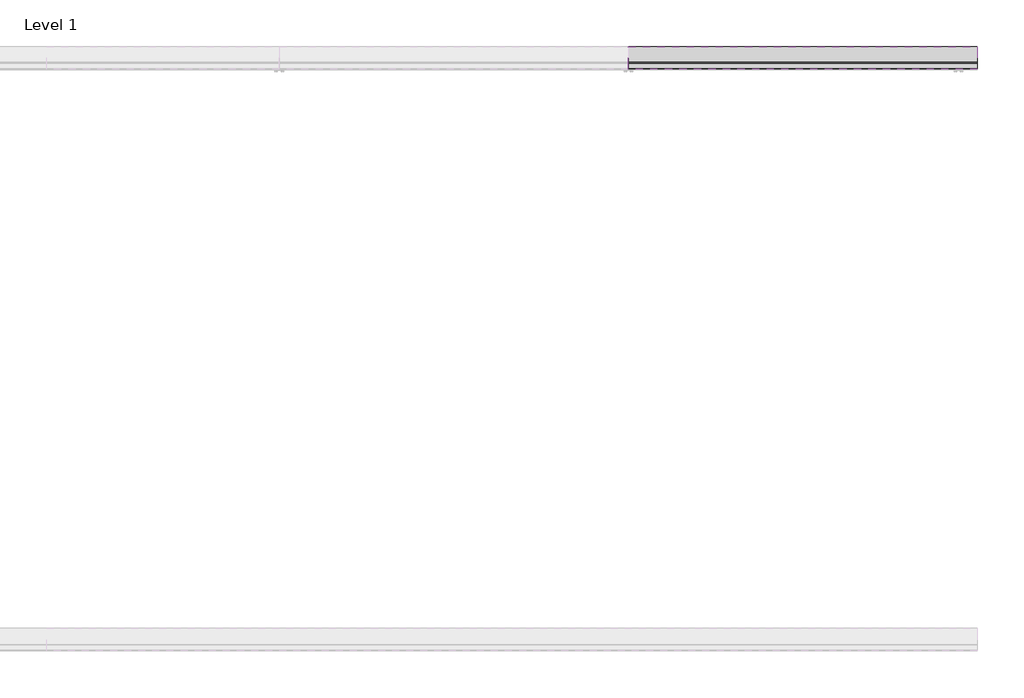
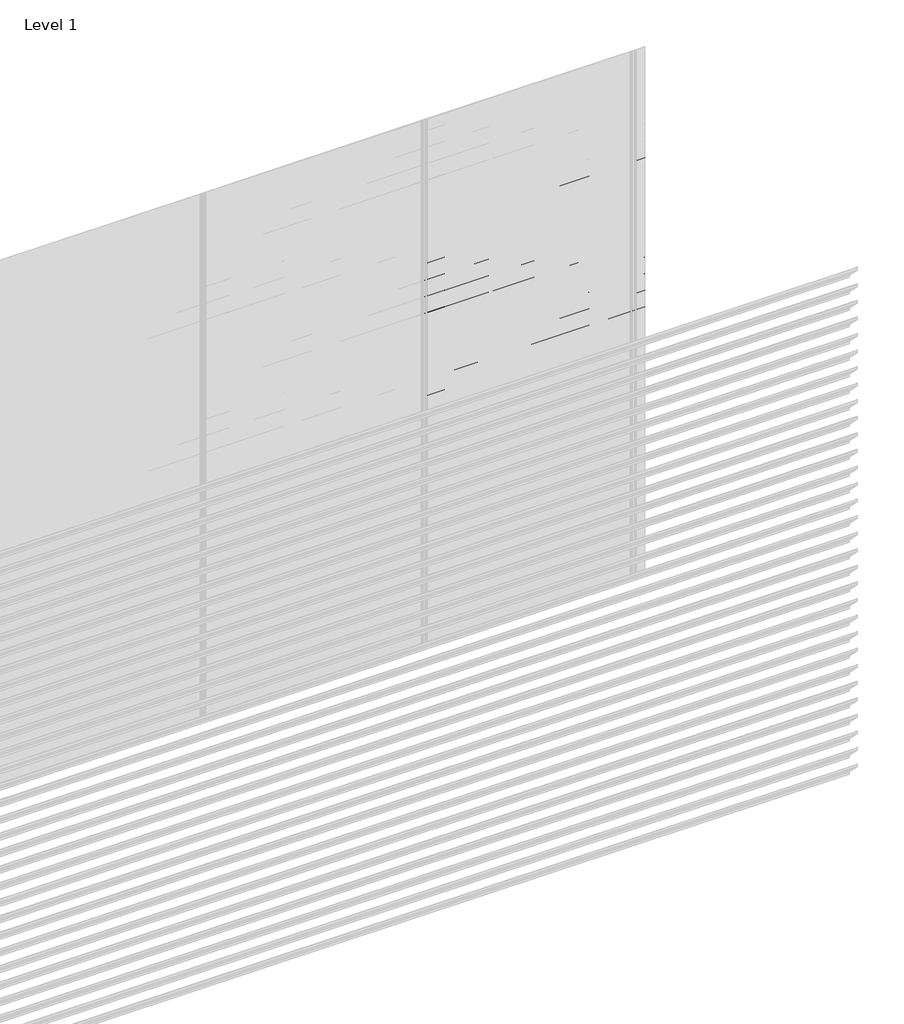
# One storey, part 24 of 24: 25 proxies.
"""IFC4 building model written with IfcOpenShell, lengths in millimetres."""

from ifc_helpers import new_model, si_unit, frame, origin, place, context, project, spatial, polyline, outline, extrude, element, save

model = new_model("IFC4")

# Units and contexts
model_context = context("Model", 3, world=origin())
ifc_project = project(units=[si_unit("LENGTHUNIT", "METRE", prefix="MILLI")], contexts=[model_context])

# Site, building, storey
site = spatial("IfcSite", under=ifc_project)
building = spatial("IfcBuilding", under=site)
storey = spatial("IfcBuildingStorey", under=building, Name="Level 1", Elevation=0.0)

# Proxies
placement = place(None, origin())
element("IfcBuildingElementProxy", 1, Name="Wall Sweeps", at=placement, inside=storey, context=model_context, shape_type="SweptSolid", body=[
    extrude(outline(polyline([(79.2, 2272.9), (77.7, 2272.9), (77.7, 2285.1762333), (2.0, 2360.4561238), (2.0, 2375.0), (3.5, 2375.0), (3.5, 2361.0798905), (79.2, 2285.8), (79.2, 2272.9)])), frame((4800.0, 0.0, 0.0), z_axis=(1.0, 0.0, 0.0), x_axis=(0.0, 1.0, 0.0)), (0.0, 0.0, 1.0), 1200.0),
])
element("IfcBuildingElementProxy", 2, Name="Wall Sweeps", at=placement, inside=storey, context=model_context, shape_type="SweptSolid", body=[
    extrude(outline(polyline([(79.2, 2177.9), (77.7, 2177.9), (77.7, 2190.1762333), (2.0, 2265.4561238), (2.0, 2280.0), (3.5, 2280.0), (3.5, 2266.0798905), (79.2, 2190.8), (79.2, 2177.9)])), frame((4800.0, 0.0, 0.0), z_axis=(1.0, 0.0, 0.0), x_axis=(0.0, 1.0, 0.0)), (0.0, 0.0, 1.0), 1200.0),
])
element("IfcBuildingElementProxy", 3, Name="Wall Sweeps", at=placement, inside=storey, context=model_context, shape_type="SweptSolid", body=[
    extrude(outline(polyline([(79.2, 2082.9), (77.7, 2082.9), (77.7, 2095.1762333), (2.0, 2170.4561238), (2.0, 2185.0), (3.5, 2185.0), (3.5, 2171.0798905), (79.2, 2095.8), (79.2, 2082.9)])), frame((4800.0, 0.0, 0.0), z_axis=(1.0, 0.0, 0.0), x_axis=(0.0, 1.0, 0.0)), (0.0, 0.0, 1.0), 1200.0),
])
element("IfcBuildingElementProxy", 4, Name="Wall Sweeps", at=placement, inside=storey, context=model_context, shape_type="SweptSolid", body=[
    extrude(outline(polyline([(79.2, 1987.9), (77.7, 1987.9), (77.7, 2000.1762333), (2.0, 2075.4561238), (2.0, 2090.0), (3.5, 2090.0), (3.5, 2076.0798905), (79.2, 2000.8), (79.2, 1987.9)])), frame((4800.0, 0.0, 0.0), z_axis=(1.0, 0.0, 0.0), x_axis=(0.0, 1.0, 0.0)), (0.0, 0.0, 1.0), 1200.0),
])
element("IfcBuildingElementProxy", 5, Name="Wall Sweeps", at=placement, inside=storey, context=model_context, shape_type="SweptSolid", body=[
    extrude(outline(polyline([(79.2, 1892.9), (77.7, 1892.9), (77.7, 1905.1762333), (2.0, 1980.4561238), (2.0, 1995.0), (3.5, 1995.0), (3.5, 1981.0798905), (79.2, 1905.8), (79.2, 1892.9)])), frame((4800.0, 0.0, 0.0), z_axis=(1.0, 0.0, 0.0), x_axis=(0.0, 1.0, 0.0)), (0.0, 0.0, 1.0), 1200.0),
])
element("IfcBuildingElementProxy", 6, Name="Wall Sweeps", at=placement, inside=storey, context=model_context, shape_type="SweptSolid", body=[
    extrude(outline(polyline([(79.2, 1797.9), (77.7, 1797.9), (77.7, 1810.1762333), (2.0, 1885.4561238), (2.0, 1900.0), (3.5, 1900.0), (3.5, 1886.0798905), (79.2, 1810.8), (79.2, 1797.9)])), frame((4800.0, 0.0, 0.0), z_axis=(1.0, 0.0, 0.0), x_axis=(0.0, 1.0, 0.0)), (0.0, 0.0, 1.0), 1200.0),
])
element("IfcBuildingElementProxy", 7, Name="Wall Sweeps", at=placement, inside=storey, context=model_context, shape_type="SweptSolid", body=[
    extrude(outline(polyline([(79.2, 1702.9), (77.7, 1702.9), (77.7, 1715.1762333), (2.0, 1790.4561238), (2.0, 1805.0), (3.5, 1805.0), (3.5, 1791.0798905), (79.2, 1715.8), (79.2, 1702.9)])), frame((4800.0, 0.0, 0.0), z_axis=(1.0, 0.0, 0.0), x_axis=(0.0, 1.0, 0.0)), (0.0, 0.0, 1.0), 1200.0),
])
element("IfcBuildingElementProxy", 8, Name="Wall Sweeps", at=placement, inside=storey, context=model_context, shape_type="SweptSolid", body=[
    extrude(outline(polyline([(79.2, 1607.9), (77.7, 1607.9), (77.7, 1620.1762333), (2.0, 1695.4561238), (2.0, 1710.0), (3.5, 1710.0), (3.5, 1696.0798905), (79.2, 1620.8), (79.2, 1607.9)])), frame((4800.0, 0.0, 0.0), z_axis=(1.0, 0.0, 0.0), x_axis=(0.0, 1.0, 0.0)), (0.0, 0.0, 1.0), 1200.0),
])
element("IfcBuildingElementProxy", 9, Name="Wall Sweeps", at=placement, inside=storey, context=model_context, shape_type="SweptSolid", body=[
    extrude(outline(polyline([(79.2, 1512.9), (77.7, 1512.9), (77.7, 1525.1762333), (2.0, 1600.4561238), (2.0, 1615.0), (3.5, 1615.0), (3.5, 1601.0798905), (79.2, 1525.8), (79.2, 1512.9)])), frame((4800.0, 0.0, 0.0), z_axis=(1.0, 0.0, 0.0), x_axis=(0.0, 1.0, 0.0)), (0.0, 0.0, 1.0), 1200.0),
])
element("IfcBuildingElementProxy", 10, Name="Wall Sweeps", at=placement, inside=storey, context=model_context, shape_type="SweptSolid", body=[
    extrude(outline(polyline([(79.2, 1417.9), (77.7, 1417.9), (77.7, 1430.1762333), (2.0, 1505.4561238), (2.0, 1520.0), (3.5, 1520.0), (3.5, 1506.0798905), (79.2, 1430.8), (79.2, 1417.9)])), frame((4800.0, 0.0, 0.0), z_axis=(1.0, 0.0, 0.0), x_axis=(0.0, 1.0, 0.0)), (0.0, 0.0, 1.0), 1200.0),
])
element("IfcBuildingElementProxy", 11, Name="Wall Sweeps", at=placement, inside=storey, context=model_context, shape_type="SweptSolid", body=[
    extrude(outline(polyline([(79.2, 1322.9), (77.7, 1322.9), (77.7, 1335.1762333), (2.0, 1410.4561238), (2.0, 1425.0), (3.5, 1425.0), (3.5, 1411.0798905), (79.2, 1335.8), (79.2, 1322.9)])), frame((4800.0, 0.0, 0.0), z_axis=(1.0, 0.0, 0.0), x_axis=(0.0, 1.0, 0.0)), (0.0, 0.0, 1.0), 1200.0),
])
element("IfcBuildingElementProxy", 12, Name="Wall Sweeps", at=placement, inside=storey, context=model_context, shape_type="SweptSolid", body=[
    extrude(outline(polyline([(79.2, 1227.9), (77.7, 1227.9), (77.7, 1240.1762333), (2.0, 1315.4561238), (2.0, 1330.0), (3.5, 1330.0), (3.5, 1316.0798905), (79.2, 1240.8), (79.2, 1227.9)])), frame((4800.0, 0.0, 0.0), z_axis=(1.0, 0.0, 0.0), x_axis=(0.0, 1.0, 0.0)), (0.0, 0.0, 1.0), 1200.0),
])
element("IfcBuildingElementProxy", 13, Name="Wall Sweeps", at=placement, inside=storey, context=model_context, shape_type="SweptSolid", body=[
    extrude(outline(polyline([(79.2, 1132.9), (77.7, 1132.9), (77.7, 1145.1762333), (2.0, 1220.4561238), (2.0, 1235.0), (3.5, 1235.0), (3.5, 1221.0798905), (79.2, 1145.8), (79.2, 1132.9)])), frame((4800.0, 0.0, 0.0), z_axis=(1.0, 0.0, 0.0), x_axis=(0.0, 1.0, 0.0)), (0.0, 0.0, 1.0), 1200.0),
])
element("IfcBuildingElementProxy", 14, Name="Wall Sweeps", at=placement, inside=storey, context=model_context, shape_type="SweptSolid", body=[
    extrude(outline(polyline([(79.2, 1037.9), (77.7, 1037.9), (77.7, 1050.1762333), (2.0, 1125.4561238), (2.0, 1140.0), (3.5, 1140.0), (3.5, 1126.0798905), (79.2, 1050.8), (79.2, 1037.9)])), frame((4800.0, 0.0, 0.0), z_axis=(1.0, 0.0, 0.0), x_axis=(0.0, 1.0, 0.0)), (0.0, 0.0, 1.0), 1200.0),
])
element("IfcBuildingElementProxy", 15, Name="Wall Sweeps", at=placement, inside=storey, context=model_context, shape_type="SweptSolid", body=[
    extrude(outline(polyline([(79.2, 942.9), (77.7, 942.9), (77.7, 955.1762333), (2.0, 1030.4561238), (2.0, 1045.0), (3.5, 1045.0), (3.5, 1031.0798905), (79.2, 955.8), (79.2, 942.9)])), frame((4800.0, 0.0, 0.0), z_axis=(1.0, 0.0, 0.0), x_axis=(0.0, 1.0, 0.0)), (0.0, 0.0, 1.0), 1200.0),
])
element("IfcBuildingElementProxy", 16, Name="Wall Sweeps", at=placement, inside=storey, context=model_context, shape_type="SweptSolid", body=[
    extrude(outline(polyline([(79.2, 847.9), (77.7, 847.9), (77.7, 860.1762333), (2.0, 935.4561238), (2.0, 950.0), (3.5, 950.0), (3.5, 936.0798905), (79.2, 860.8), (79.2, 847.9)])), frame((4800.0, 0.0, 0.0), z_axis=(1.0, 0.0, 0.0), x_axis=(0.0, 1.0, 0.0)), (0.0, 0.0, 1.0), 1200.0),
])
element("IfcBuildingElementProxy", 17, Name="Wall Sweeps", at=placement, inside=storey, context=model_context, shape_type="SweptSolid", body=[
    extrude(outline(polyline([(79.2, 752.9), (77.7, 752.9), (77.7, 765.1762333), (2.0, 840.4561238), (2.0, 855.0), (3.5, 855.0), (3.5, 841.0798905), (79.2, 765.8), (79.2, 752.9)])), frame((4800.0, 0.0, 0.0), z_axis=(1.0, 0.0, 0.0), x_axis=(0.0, 1.0, 0.0)), (0.0, 0.0, 1.0), 1200.0),
])
element("IfcBuildingElementProxy", 18, Name="Wall Sweeps", at=placement, inside=storey, context=model_context, shape_type="SweptSolid", body=[
    extrude(outline(polyline([(79.2, 657.9), (77.7, 657.9), (77.7, 670.1762333), (2.0, 745.4561238), (2.0, 760.0), (3.5, 760.0), (3.5, 746.0798905), (79.2, 670.8), (79.2, 657.9)])), frame((4800.0, 0.0, 0.0), z_axis=(1.0, 0.0, 0.0), x_axis=(0.0, 1.0, 0.0)), (0.0, 0.0, 1.0), 1200.0),
])
element("IfcBuildingElementProxy", 19, Name="Wall Sweeps", at=placement, inside=storey, context=model_context, shape_type="SweptSolid", body=[
    extrude(outline(polyline([(79.2, 562.9), (77.7, 562.9), (77.7, 575.1762333), (2.0, 650.4561238), (2.0, 665.0), (3.5, 665.0), (3.5, 651.0798905), (79.2, 575.8), (79.2, 562.9)])), frame((4800.0, 0.0, 0.0), z_axis=(1.0, 0.0, 0.0), x_axis=(0.0, 1.0, 0.0)), (0.0, 0.0, 1.0), 1200.0),
])
element("IfcBuildingElementProxy", 20, Name="Wall Sweeps", at=placement, inside=storey, context=model_context, shape_type="SweptSolid", body=[
    extrude(outline(polyline([(79.2, 467.9), (77.7, 467.9), (77.7, 480.1762333), (2.0, 555.4561238), (2.0, 570.0), (3.5, 570.0), (3.5, 556.0798905), (79.2, 480.8), (79.2, 467.9)])), frame((4800.0, 0.0, 0.0), z_axis=(1.0, 0.0, 0.0), x_axis=(0.0, 1.0, 0.0)), (0.0, 0.0, 1.0), 1200.0),
])
element("IfcBuildingElementProxy", 21, Name="Wall Sweeps", at=placement, inside=storey, context=model_context, shape_type="SweptSolid", body=[
    extrude(outline(polyline([(79.2, 372.9), (77.7, 372.9), (77.7, 385.1762333), (2.0, 460.4561238), (2.0, 475.0), (3.5, 475.0), (3.5, 461.0798905), (79.2, 385.8), (79.2, 372.9)])), frame((4800.0, 0.0, 0.0), z_axis=(1.0, 0.0, 0.0), x_axis=(0.0, 1.0, 0.0)), (0.0, 0.0, 1.0), 1200.0),
])
element("IfcBuildingElementProxy", 22, Name="Wall Sweeps", at=placement, inside=storey, context=model_context, shape_type="SweptSolid", body=[
    extrude(outline(polyline([(79.2, 277.9), (77.7, 277.9), (77.7, 290.1762333), (2.0, 365.4561238), (2.0, 380.0), (3.5, 380.0), (3.5, 366.0798905), (79.2, 290.8), (79.2, 277.9)])), frame((4800.0, 0.0, 0.0), z_axis=(1.0, 0.0, 0.0), x_axis=(0.0, 1.0, 0.0)), (0.0, 0.0, 1.0), 1200.0),
])
element("IfcBuildingElementProxy", 23, Name="Wall Sweeps", at=placement, inside=storey, context=model_context, shape_type="SweptSolid", body=[
    extrude(outline(polyline([(79.2, 182.9), (77.7, 182.9), (77.7, 195.1762333), (2.0, 270.4561238), (2.0, 285.0), (3.5, 285.0), (3.5, 271.0798905), (79.2, 195.8), (79.2, 182.9)])), frame((4800.0, 0.0, 0.0), z_axis=(1.0, 0.0, 0.0), x_axis=(0.0, 1.0, 0.0)), (0.0, 0.0, 1.0), 1200.0),
])
element("IfcBuildingElementProxy", 24, Name="Wall Sweeps", at=placement, inside=storey, context=model_context, shape_type="SweptSolid", body=[
    extrude(outline(polyline([(79.2, 87.9), (77.7, 87.9), (77.7, 100.1762333), (2.0, 175.4561238), (2.0, 190.0), (3.5, 190.0), (3.5, 176.0798905), (79.2, 100.8), (79.2, 87.9)])), frame((4800.0, 0.0, 0.0), z_axis=(1.0, 0.0, 0.0), x_axis=(0.0, 1.0, 0.0)), (0.0, 0.0, 1.0), 1200.0),
])
element("IfcBuildingElementProxy", 25, Name="Wall Sweeps", at=placement, inside=storey, context=model_context, shape_type="SweptSolid", body=[
    extrude(outline(polyline([(79.2, -7.1), (77.7, -7.1), (77.7, 5.1762333), (2.0, 80.4561238), (2.0, 95.0), (3.5, 95.0), (3.5, 81.0798905), (79.2, 5.8), (79.2, -7.1)])), frame((4800.0, 0.0, 0.0), z_axis=(1.0, 0.0, 0.0), x_axis=(0.0, 1.0, 0.0)), (0.0, 0.0, 1.0), 1200.0),
])

save(model, "model.ifc")
